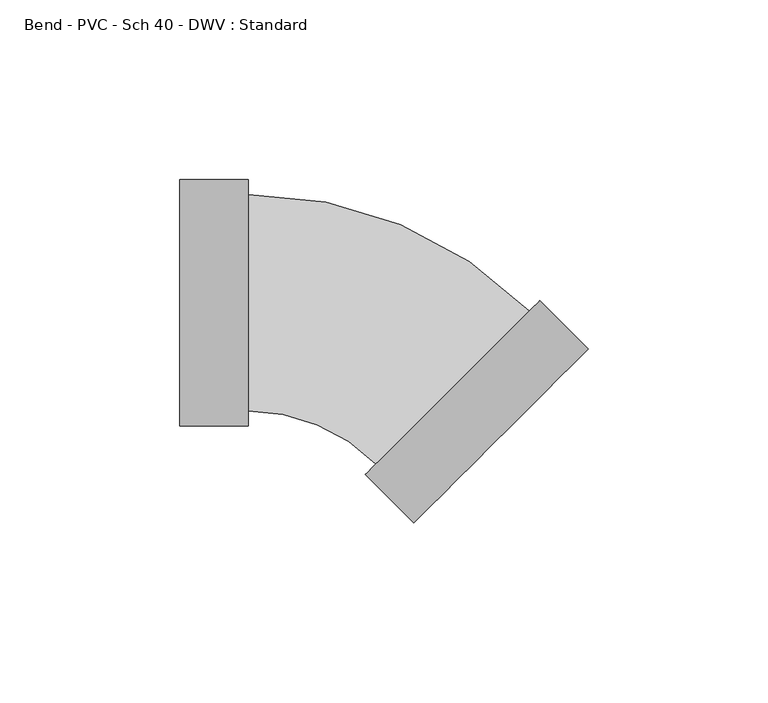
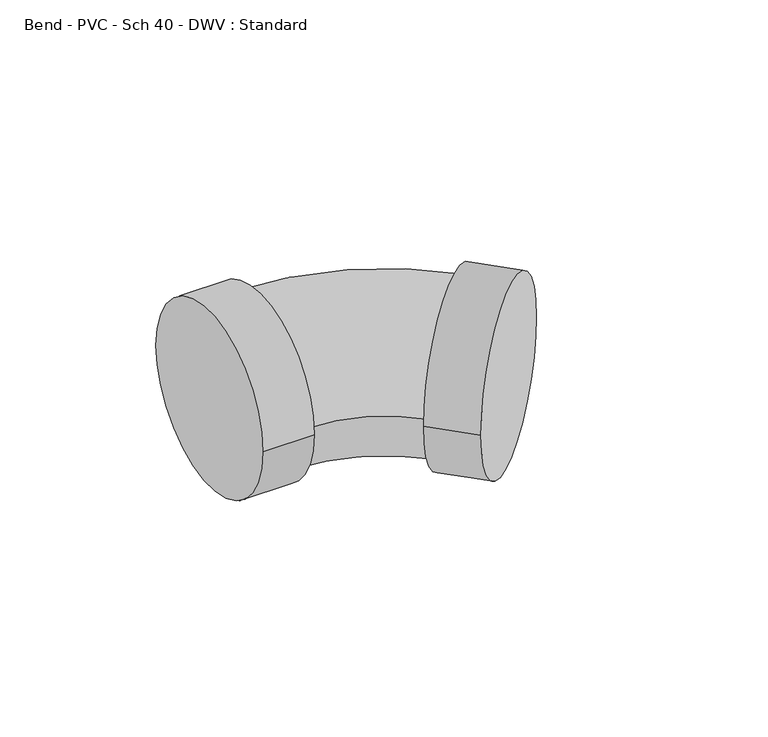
"""IFC4 building model written with IfcOpenShell, lengths in millimetres: pipe fitting geometry, Bend - PVC - Sch 40 - DWV : Standard."""

import ifcopenshell
import ifcopenshell.guid

model = None  # the IFC model being written
_history = None  # IfcOwnerHistory: only IFC2X3 demands one
_inside = {}  # id of a spatial element -> (the spatial element, [elements in it])
_under = {}  # id of a project, library or spatial element -> (it, [spatial elements below it])
_declared = {}  # id of a project -> (the project, [libraries it declares])
_typed = {}  # id of a type object -> (the type object, [elements of that type])
_made_of = {}  # id of a material, layer set ... -> (it, [elements and type objects made of it])


def new_model(schema):
    """Start an empty IFC model of exactly this schema.

    Asked for "IFC4X3", IfcOpenShell would pick the latest addendum, in which some entities
    have other attributes; the version numbers below select the first issue.
    IFC2X3 requires an IfcOwnerHistory on every rooted entity: one is made here for all.
    """
    global model, _history
    if schema == "IFC4X3":
        model = ifcopenshell.file(schema_version=(4, 3, 0, 0))
    else:
        model = ifcopenshell.file(schema=schema)
    _inside.clear()
    _under.clear()
    _declared.clear()
    _typed.clear()
    _made_of.clear()
    _history = None
    if model.schema == "IFC2X3":
        org = make("IfcOrganization", Name="unknown")
        user = make(
            "IfcPersonAndOrganization",
            ThePerson=make("IfcPerson", FamilyName="unknown"),
            TheOrganization=org,
        )
        app = make(
            "IfcApplication",
            ApplicationDeveloper=org,
            Version="unknown",
            ApplicationFullName="unknown",
            ApplicationIdentifier="unknown",
        )
        _history = make(
            "IfcOwnerHistory",
            OwningUser=user,
            OwningApplication=app,
            ChangeAction="ADDED",
            CreationDate=0,
        )
    return model


def make(cls, **values):
    """One entity of the class cls with the attributes given. An attribute that is None is left unset."""
    return model.create_entity(
        cls, **{name: value for name, value in values.items() if value is not None}
    )


def rooted(cls, **values):
    """An entity with a GlobalId (a new one), such as an element, a storey or a relation."""
    return make(cls, GlobalId=ifcopenshell.guid.new(), OwnerHistory=_history, **values)


def si_unit(unit_type, name, prefix=None):
    """IfcSIUnit, for example si_unit("LENGTHUNIT", "METRE", prefix="MILLI")."""
    return make("IfcSIUnit", UnitType=unit_type, Prefix=prefix, Name=name)


def assignment(units):
    """IfcUnitAssignment: the units of a project."""
    return None if units is None else make("IfcUnitAssignment", Units=units)


def point(xyz):
    """IfcCartesianPoint."""
    return None if xyz is None else make("IfcCartesianPoint", Coordinates=xyz)


def direction(xyz):
    """IfcDirection."""
    return None if xyz is None else make("IfcDirection", DirectionRatios=xyz)


def frame(location, z_axis=None, x_axis=None):
    """IfcAxis2Placement3D, a coordinate frame: its origin and axes. An axis left out is left unset."""
    return make(
        "IfcAxis2Placement3D",
        Location=point(location),
        Axis=direction(z_axis),
        RefDirection=direction(x_axis),
    )


def origin():
    """The frame at (0, 0, 0) with its axes left unset."""
    return frame((0.0, 0.0, 0.0))


def place(relative_to, where):
    """IfcLocalPlacement: puts the frame where relative to a parent placement (None: the world)."""
    return make(
        "IfcLocalPlacement", PlacementRelTo=relative_to, RelativePlacement=where
    )


def context(
    kind, dimensions, precision=None, world=None, true_north=None, identifier=None
):
    """IfcGeometricRepresentationContext, for example the 3D "Model" context."""
    return make(
        "IfcGeometricRepresentationContext",
        ContextIdentifier=identifier,
        ContextType=kind,
        CoordinateSpaceDimension=dimensions,
        Precision=precision,
        WorldCoordinateSystem=world,
        TrueNorth=true_north,
    )


def project(units=None, contexts=None):
    """IfcProject with its units and contexts."""
    return rooted(
        "IfcProject",
        Name="project",
        RepresentationContexts=contexts,
        UnitsInContext=assignment(units),
    )


def spatial(cls, under=None, at=None, **own):
    """A site, building, storey or space (cls), placed at a placement, below another one or the project."""
    s = rooted(cls, ObjectPlacement=at, **own)
    if under is not None:
        _under.setdefault(under.id(), (under, []))[1].append(s)
    return s


def circle_curve(where, radius):
    """IfcCircle in the frame where."""
    return make("IfcCircle", Position=where, Radius=radius)


def ellipse_curve(where, semi_axis1, semi_axis2):
    """IfcEllipse in the frame where."""
    return make(
        "IfcEllipse", Position=where, SemiAxis1=semi_axis1, SemiAxis2=semi_axis2
    )


def trimmed(basis, trim1, trim2, sense, master):
    """IfcTrimmedCurve: the piece of a basis curve between two trims."""
    return make(
        "IfcTrimmedCurve",
        BasisCurve=basis,
        Trim1=trim1,
        Trim2=trim2,
        SenseAgreement=sense,
        MasterRepresentation=master,
    )


def shape(context_of_items, identifier, shape_type, items):
    """IfcShapeRepresentation: the items that make up one representation, for example the "Body"."""
    return make(
        "IfcShapeRepresentation",
        ContextOfItems=context_of_items,
        RepresentationIdentifier=identifier,
        RepresentationType=shape_type,
        Items=items,
    )


def source(mapping_origin, context_of_items, identifier, shape_type, items):
    """IfcRepresentationMap: a shape defined once, which mapped items show again and again."""
    return make(
        "IfcRepresentationMap",
        MappingOrigin=mapping_origin,
        MappedRepresentation=shape(context_of_items, identifier, shape_type, items),
    )


def transform(
    local_origin,
    x_axis=None,
    y_axis=None,
    z_axis=None,
    scale=None,
    scale2=None,
    scale3=None,
    uniform=True,
):
    """IfcCartesianTransformationOperator3D, or its non-uniform kind. x_axis, y_axis, z_axis: its Axis1, 2, 3."""
    if uniform:
        return make(
            "IfcCartesianTransformationOperator3D",
            Axis1=direction(x_axis),
            Axis2=direction(y_axis),
            LocalOrigin=point(local_origin),
            Scale=scale,
            Axis3=direction(z_axis),
        )
    return make(
        "IfcCartesianTransformationOperator3DnonUniform",
        Axis1=direction(x_axis),
        Axis2=direction(y_axis),
        LocalOrigin=point(local_origin),
        Scale=scale,
        Axis3=direction(z_axis),
        Scale2=scale2,
        Scale3=scale3,
    )


def mapped(mapping_source, mapping_target):
    """IfcMappedItem: shows the shape of a source again, moved by a transform."""
    return make(
        "IfcMappedItem", MappingSource=mapping_source, MappingTarget=mapping_target
    )


def made_of(thing, what):
    """Note that an element or type object is made of a material, layer set ...; save() writes the relation."""
    if what is not None:
        _made_of.setdefault(what.id(), (what, []))[1].append(thing)
    return thing


def element(
    cls,
    number,
    at=None,
    inside=None,
    cuts=None,
    type_object=None,
    material=None,
    context=None,
    identifier="Body",
    shape_type=None,
    held_by="IfcProductDefinitionShape",
    body=None,
    shapes=None,
    **own,
):
    """One element of the class cls, such as IfcWall. Its Tag is "e" and its number.

    at: its placement. inside: the storey or other place that contains it. cuts: it is an
    opening in that element (IfcRelVoidsElement). A single representation is given by context,
    identifier, shape_type and body (its items); several are given by shapes. held_by: the class
    of the entity that holds the representations. save() writes the other relations.
    """
    e = rooted(cls, Tag="e%d" % number, ObjectPlacement=at, **own)
    if body is not None:
        shapes = [shape(context, identifier, shape_type, body)]
    if shapes is not None:
        e.Representation = make(held_by, Representations=shapes)
    if inside is not None:
        _inside.setdefault(inside.id(), (inside, []))[1].append(e)
    if cuts is not None:
        rooted(
            "IfcRelVoidsElement", RelatingBuildingElement=cuts, RelatedOpeningElement=e
        )
    if type_object is not None:
        _typed.setdefault(type_object.id(), (type_object, []))[1].append(e)
    return made_of(e, material)


def aggregate(whole, parts):
    """IfcRelAggregates: a whole, such as a stair, and the parts it consists of."""
    return rooted("IfcRelAggregates", RelatingObject=whole, RelatedObjects=parts)


def save(model, path):
    """Write the relations noted so far, then the file.

    IfcRelAggregates (storeys below a building ...), IfcRelContainedInSpatialStructure (elements
    in a storey), IfcRelDefinesByType, IfcRelAssociatesMaterial and IfcRelDeclares: one each for
    every whole, place, type object, material and project.
    """
    for whole, parts in _under.values():
        aggregate(whole, parts)
    for where, things in _inside.values():
        rooted(
            "IfcRelContainedInSpatialStructure",
            RelatedElements=things,
            RelatingStructure=where,
        )
    for kind, things in _typed.values():
        rooted("IfcRelDefinesByType", RelatedObjects=things, RelatingType=kind)
    for what, things in _made_of.values():
        rooted("IfcRelAssociatesMaterial", RelatedObjects=things, RelatingMaterial=what)
    for by, libraries in _declared.values():
        rooted("IfcRelDeclares", RelatingContext=by, RelatedDefinitions=libraries)
    model.write(path)


def plane_surface(at):
    """IfcPlane: the flat surface through the origin of the frame at, square to its z axis."""
    return make("IfcPlane", Position=at)


def cylinder_surface(at, radius):
    """IfcCylindricalSurface: all points at the distance radius from the z axis of the frame at."""
    return make("IfcCylindricalSurface", Position=at, Radius=radius)


def revolved_surface(curve, axis_point, axis_direction):
    """IfcSurfaceOfRevolution: the curve turned about the line through axis_point along axis_direction."""
    return make(
        "IfcSurfaceOfRevolution",
        SweptCurve=make("IfcArbitraryOpenProfileDef", ProfileType="CURVE", Curve=curve),
        AxisPosition=make("IfcAxis1Placement", Location=point(axis_point), Axis=direction(axis_direction)),
    )


def advanced_brep(points, edges, surfaces, faces):
    """IfcAdvancedBrep: a solid bounded by faces that lie on surfaces and meet in shared edges.

    An edge is (start, end): straight between two places in points (the first is 0);
    or (start, end, curve); or (start, end, curve, False) where it runs against its curve.
    A face is (place in surfaces, loops), or (place, loops, False) where it looks against
    its surface's normal. A loop lists edges by number (the first is 1), with a minus sign
    where the edge is run from its end to its start. The first loop is the outer one.
    """
    corners = [point(p) for p in points]
    vertices = [make("IfcVertexPoint", VertexGeometry=c) for c in corners]
    made = []
    for start, end, *more in edges:
        made.append(
            make(
                "IfcEdgeCurve",
                EdgeStart=vertices[start],
                EdgeEnd=vertices[end],
                EdgeGeometry=more[0] if more else make("IfcPolyline", Points=[corners[start], corners[end]]),
                SameSense=more[1] if len(more) > 1 else True,
            )
        )
    hull = []
    for where, loops, *sense in faces:
        bounds = []
        for j, loop in enumerate(loops):
            ring = [make("IfcOrientedEdge", EdgeElement=made[abs(k) - 1], Orientation=k > 0) for k in loop]
            bounds.append(
                make(
                    "IfcFaceOuterBound" if j == 0 else "IfcFaceBound",
                    Bound=make("IfcEdgeLoop", EdgeList=ring),
                    Orientation=True,
                )
            )
        hull.append(make("IfcAdvancedFace", Bounds=bounds, FaceSurface=surfaces[where], SameSense=sense[0] if sense else True))
    return make("IfcAdvancedBrep", Outer=make("IfcClosedShell", CfsFaces=hull))


def bend_pvc_sch_40_dwv_standard_52eb40f7(model_context):
    return source(origin(), model_context, "Body", "AdvancedBrep", [
        advanced_brep(
        [(-52.4002, 34.3154, 0.0), (-52.4002, -34.3154, 0.0), (-33.3502, 34.3154, 0.0), (-33.3502, -34.3154, 0.0), (-33.3502, 30.1625, 0.0), (-33.3502, -30.1625, 0.0), (2.2277791, -44.9115714, 0.0), (44.908935, -2.2803087, 0.0), (47.8471956, 0.6545172, 0.0), (-0.7104815, -47.8463973, 0.0), (61.3096996, -12.8237426, 0.0), (12.7520225, -61.324657, 0.0)],
        [
            (0, 1, circle_curve(frame((-52.4002, 0.0, 0.0), z_axis=(-1.0, 0.0, 0.0), x_axis=(0.0, -1.0, 0.0)), 34.3154)),
            (1, 0, circle_curve(frame((-52.4002, 0.0, 0.0), z_axis=(-1.0, 0.0, 0.0), x_axis=(0.0, -1.0, 0.0)), 34.3154)),
            (2, 3, circle_curve(frame((-33.3502, 0.0, 0.0), z_axis=(1.0, 0.0, 0.0), x_axis=(0.0, -1.0, 0.0)), 34.3154)),
            (3, 2, circle_curve(frame((-33.3502, 0.0, 0.0), z_axis=(1.0, 0.0, 0.0), x_axis=(0.0, -1.0, 0.0)), 34.3154)),
            (4, 5, circle_curve(frame((-33.3502, 0.0, 0.0), z_axis=(-1.0, 0.0, 0.0), x_axis=(0.0, -1.0, 0.0)), 30.1625)),
            (5, 4, circle_curve(frame((-33.3502, 0.0, 0.0), z_axis=(-1.0, 0.0, 0.0), x_axis=(0.0, -1.0, 0.0)), 30.1625)),
            (1, 3),
            (2, 0),
            (6, 7, circle_curve(frame((23.568357, -23.5959401, 0.0), z_axis=(-0.7066931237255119, 0.7075201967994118, 0.0), x_axis=(-0.7075201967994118, -0.7066931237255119, 0.0)), 30.1625)),
            (7, 4, circle_curve(frame((-33.3502, -80.4479607, 0.0), z_axis=(0.0, 0.0, 1.0), x_axis=(0.0, 1.0, 0.0)), 110.6104607)),
            (5, 6, circle_curve(frame((-33.3502, -80.4479607, 0.0), z_axis=(0.0, 0.0, -1.0), x_axis=(0.0, 1.0, 0.0)), 50.2854607)),
            (7, 6, circle_curve(frame((23.568357, -23.5959401, 0.0), z_axis=(-0.7066931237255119, 0.7075201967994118, 0.0), x_axis=(-0.7075201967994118, -0.7066931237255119, 0.0)), 30.1625)),
            (8, 9, circle_curve(frame((23.568357, -23.5959401, 0.0), z_axis=(-0.7066931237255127, 0.7075201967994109, 0.0), x_axis=(-0.7075201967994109, -0.7066931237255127, 0.0)), 34.3154)),
            (9, 8, circle_curve(frame((23.568357, -23.5959401, 0.0), z_axis=(-0.7066931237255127, 0.7075201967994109, 0.0), x_axis=(-0.7075201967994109, -0.7066931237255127, 0.0)), 34.3154)),
            (10, 11, circle_curve(frame((37.030861, -37.0741998, 0.0), z_axis=(0.7066931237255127, -0.7075201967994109, 0.0), x_axis=(-0.7075201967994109, -0.7066931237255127, 0.0)), 34.3154)),
            (11, 10, circle_curve(frame((37.030861, -37.0741998, 0.0), z_axis=(0.7066931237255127, -0.7075201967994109, 0.0), x_axis=(-0.7075201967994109, -0.7066931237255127, 0.0)), 34.3154)),
            (9, 11),
            (10, 8),
        ],
        [
            plane_surface(frame((-52.4002, 0.0, 0.0), z_axis=(-1.0, 0.0, 0.0), x_axis=(0.0, 0.0, 1.0))),
            plane_surface(frame((-33.3502, 0.0, 0.0), z_axis=(1.0, 0.0, 0.0), x_axis=(0.0, 0.0, 1.0))),
            cylinder_surface(frame((-52.4002, 0.0, 0.0), z_axis=(-1.0, 0.0, 0.0), x_axis=(0.0, -1.0, 0.0)), 34.3154),
            revolved_surface(trimmed(ellipse_curve(frame((-33.3502, 0.0, 0.0), z_axis=(1.0, 0.0, 0.0), x_axis=(0.0, -1.0, 0.0)), 30.1625, 30.1625), [point((-33.3502, 30.1625, 0.0))], [point((-33.3502, -30.1625, 0.0))], True, "CARTESIAN"), (-33.3502, -80.4479607, 0.0), (0.0, 0.0, 1.0)),
            revolved_surface(trimmed(ellipse_curve(frame((-33.3502, 0.0, 0.0), z_axis=(1.0, 0.0, 0.0), x_axis=(0.0, -1.0, 0.0)), 30.1625, 30.1625), [point((-33.3502, -30.1625, 0.0))], [point((-33.3502, 30.1625, 0.0))], True, "CARTESIAN"), (-33.3502, -80.4479607, 0.0), (0.0, 0.0, 1.0)),
            plane_surface(frame((23.568357, -23.5959401, 0.0), z_axis=(-0.7066931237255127, 0.7075201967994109, 0.0), x_axis=(0.0, 0.0, 1.0))),
            plane_surface(frame((37.030861, -37.0741998, 0.0), z_axis=(0.7066931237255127, -0.7075201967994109, 0.0), x_axis=(0.0, 0.0, 1.0))),
            cylinder_surface(frame((23.568357, -23.5959401, 0.0), z_axis=(-0.7066931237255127, 0.7075201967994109, 0.0), x_axis=(-0.7075201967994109, -0.7066931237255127, 0.0)), 34.3154),
        ],
        [
            (0, [[1, 2]]),
            (1, [[3, 4], [5, 6]]),
            (2, [[7, -3, 8, -2]]),
            (2, [[-8, -4, -7, -1]]),
            (3, [[9, 10, -6, 11]]),
            (4, [[-5, -10, 12, -11]]),
            (5, [[13, 14], [-12, -9]]),
            (6, [[15, 16]]),
            (7, [[17, -15, 18, -14]]),
            (7, [[-18, -16, -17, -13]]),
        ],
    ),
    ])


if __name__ == "__main__":
    model = new_model("IFC4")
    model_context = context("Model", 3, world=origin())
    ifc_project = project(units=[si_unit("LENGTHUNIT", "METRE", prefix="MILLI")], contexts=[model_context])
    site = spatial("IfcSite", under=ifc_project)
    building = spatial("IfcBuilding", under=site)
    placement = place(None, origin())
    bend_pvc_sch_40_dwv_standard_shape = bend_pvc_sch_40_dwv_standard_52eb40f7(model_context)
    element("IfcPipeFitting", 1, ObjectType="Bend - PVC - Sch 40 - DWV : Standard", at=placement, inside=building, context=model_context, shape_type="MappedRepresentation", body=[
        mapped(bend_pvc_sch_40_dwv_standard_shape, transform((0.0, 0.0, 0.0), x_axis=(1.0, 0.0, 0.0), y_axis=(0.0, 1.0, 0.0), z_axis=(0.0, 0.0, 1.0))),
    ])
    save(model, "model.ifc")
